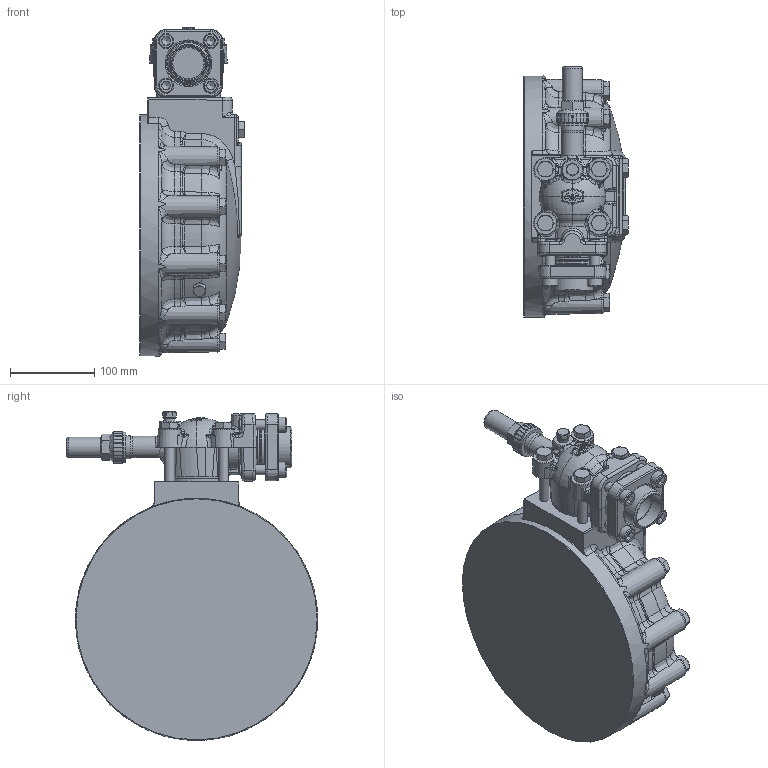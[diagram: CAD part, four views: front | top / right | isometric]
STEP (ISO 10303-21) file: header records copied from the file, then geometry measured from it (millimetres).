
FILE_DESCRIPTION(/* description */ (''),/* implementation_level */ '2;1');
FILE_NAME(/* name */ '4JE-13Y, 4JE-22, 4HE-15Y.stp',/* time_stamp */ '2024-06-26T16:32:30+02:00',/* author */ (''),/* organization */ (''),/* preprocessor_version */ 'ST-DEVELOPER v19.4',/* originating_system */ 'SIEMENS PLM Software NX2212.8901',/* authorisation */ '');
FILE_SCHEMA (('AUTOMOTIVE_DESIGN { 1 0 10303 214 3 1 1 1 }'));
Products named in the file (3): 200046938ugm001_01; 200010510ugm001_01; 200047784ugm001_04
Assembly tree (2 placements, depth 2):
  200047784ugm001_04
    200010510ugm001_01
    200046938ugm001_01
Bounding box: 124.5 x 297.65 x 389.25 mm (x, y, z)
Volume: 7235133.9 mm3; surface area: 355588.9 mm2
Topology: 2 solids, 3 shells, 2541 faces, 6367 edges, 3825 vertices
Faces by surface type: plane 860, bspline 642, extrusion 328, cylinder 301, cone 209, torus 149, sphere 52
Full cylindrical faces by diameter (mm): 1.5 x1, 10 x4, 10.2 x4, 11.794 x4, 12 x8, 12.223 x1, 13 x8, 13.7 x1, 16.5 x1, 16.6 x4, 18 x4, 24 x1, 27 x1, 36 x1, 37 x1, 39 x1, 40 x1, 41.4 x1, 42.2 x1, 49 x1, 52 x1, 52.5 x1, 53 x1, 54 x1, 57 x3, 58.5 x1, 70 x1, 286 x1
Entity records: 117092 total; most frequent: CARTESIAN_POINT 52628, ORIENTED_EDGE 12134, DIRECTION 8691, EDGE_CURVE 6067, VERTEX_POINT 3769, AXIS2_PLACEMENT_3D 3105, EDGE_LOOP 2784, B_SPLINE_CURVE_WITH_KNOTS 2710
